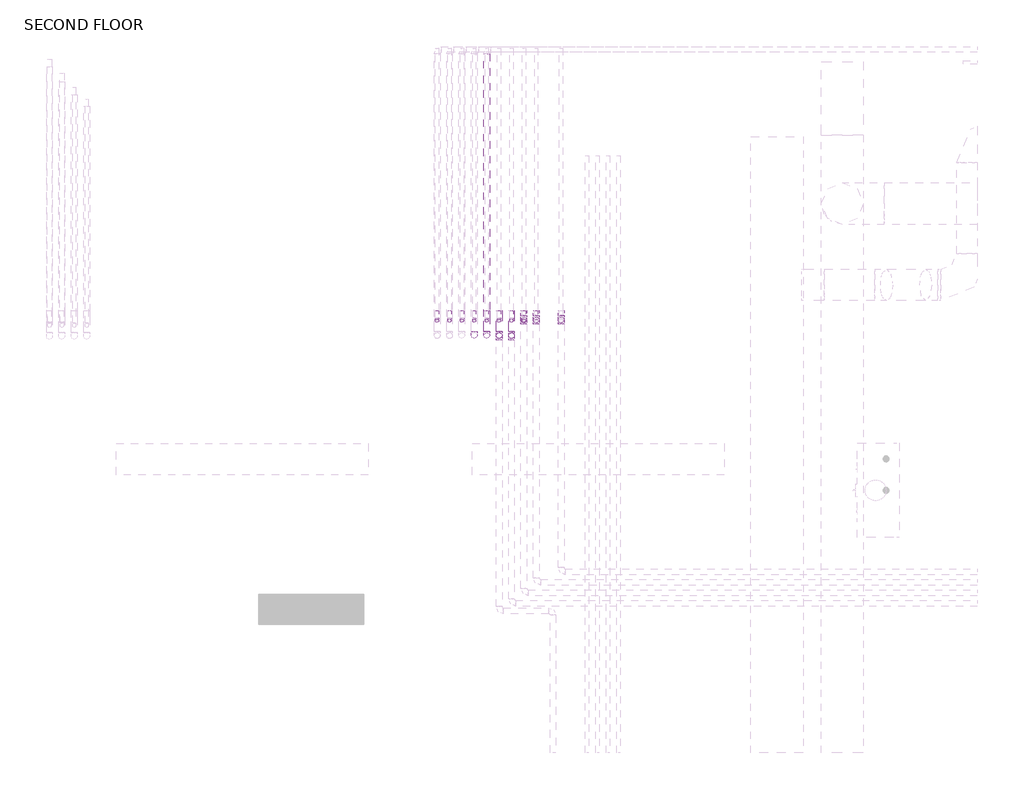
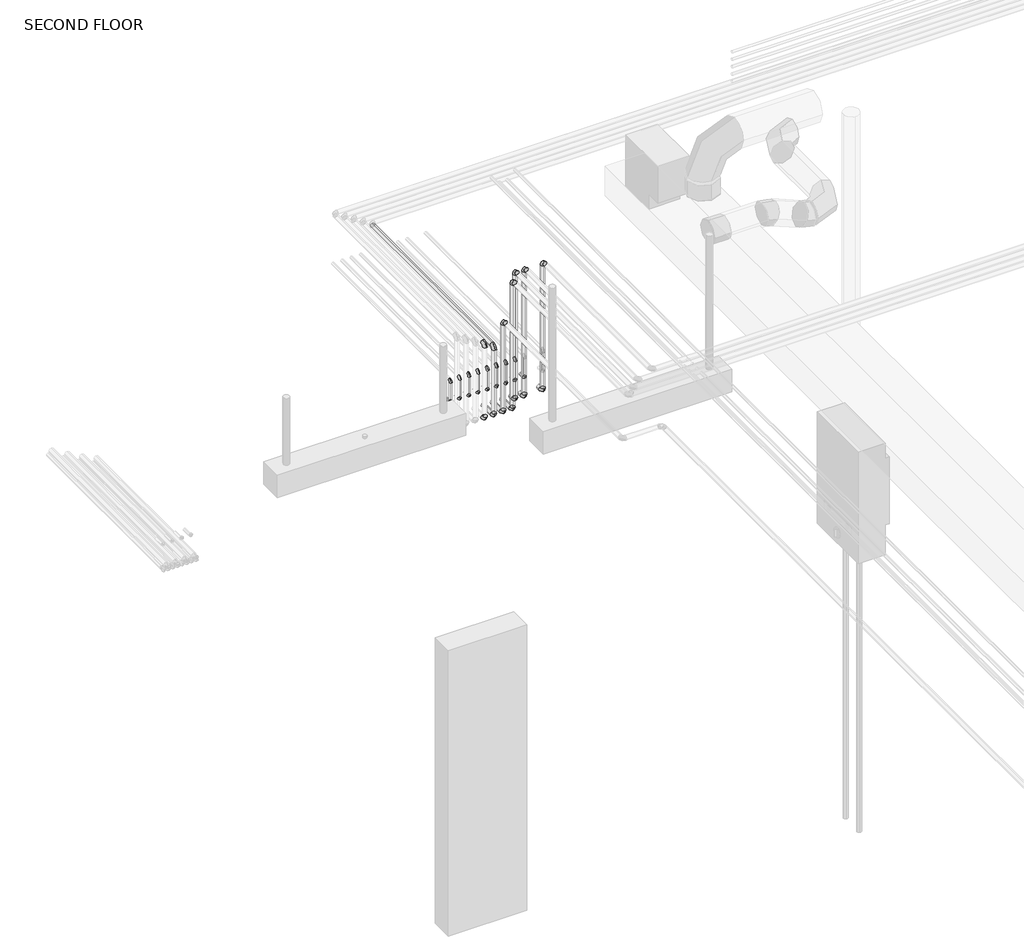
# One storey, part 8 of 12: 31 pipe fittings, 31 pipe segments.
"""IFC4 building model written with IfcOpenShell, lengths in millimetres."""

from ifc_helpers import new_model, si_unit, point, frame, frame_2d, origin, place, context, project, spatial, circle_curve, trimmed, segment, composite_curve, outline, extrude, transform, mapped, element, save
from components import elbow_generic_standard_c06ac706, elbow_generic_standard_a088f956

model = new_model("IFC4")

# Units and contexts
model_context = context("Model", 3, world=origin())
ifc_project = project(units=[si_unit("LENGTHUNIT", "METRE", prefix="MILLI")], contexts=[model_context])

# Site, building, storey
site = spatial("IfcSite", under=ifc_project)
building = spatial("IfcBuilding", under=site)
storey = spatial("IfcBuildingStorey", under=building, Name="SECOND FLOOR", Elevation=34544.0)

# Pipe fittings
placement = place(None, origin())
elbow_generic_standard_shape = elbow_generic_standard_c06ac706(model_context)
element("IfcPipeFitting", 1, ObjectType="Elbow - Generic : Standard", at=placement, inside=storey, context=model_context, shape_type="MappedRepresentation", body=[
    mapped(elbow_generic_standard_shape, transform((-7811.0790543, 6278.6701311, 37115.9125), x_axis=(0.0, -1.0, 0.0), y_axis=(0.0, 0.0, 1.0), z_axis=(-1.0, 0.0, 0.0))),
])
element("IfcPipeFitting", 2, ObjectType="Elbow - Generic : Standard", at=placement, inside=storey, context=model_context, shape_type="MappedRepresentation", body=[
    mapped(elbow_generic_standard_shape, transform((-7811.0790543, 6278.6701311, 37630.1), x_axis=(0.0, 0.0, 1.0), y_axis=(0.0, 1.0, 0.0), z_axis=(-1.0, 0.0, 0.0))),
])
element("IfcPipeFitting", 3, ObjectType="Elbow - Generic : Standard", at=placement, inside=storey, context=model_context, shape_type="MappedRepresentation", body=[
    mapped(elbow_generic_standard_shape, transform((-7751.0790543, 6278.6701311, 37115.9125), x_axis=(0.0, -1.0, 0.0), y_axis=(0.0, 0.0, 1.0), z_axis=(-1.0, 0.0, 0.0))),
])
element("IfcPipeFitting", 4, ObjectType="Elbow - Generic : Standard", at=placement, inside=storey, context=model_context, shape_type="MappedRepresentation", body=[
    mapped(elbow_generic_standard_shape, transform((-7751.0790543, 6278.6701311, 37592.0), x_axis=(0.0, 0.0, 1.0), y_axis=(0.0, 1.0, 0.0), z_axis=(-1.0, 0.0, 0.0))),
])
element("IfcPipeFitting", 5, ObjectType="Elbow - Generic : Standard", at=placement, inside=storey, context=model_context, shape_type="MappedRepresentation", body=[
    mapped(elbow_generic_standard_shape, transform((-7691.0790543, 6278.6701311, 37115.9125), x_axis=(0.0, -1.0, 0.0), y_axis=(0.0, 0.0, 1.0), z_axis=(-1.0, 0.0, 0.0))),
])
element("IfcPipeFitting", 6, ObjectType="Elbow - Generic : Standard", at=placement, inside=storey, context=model_context, shape_type="MappedRepresentation", body=[
    mapped(elbow_generic_standard_shape, transform((-7691.0790543, 6278.6701311, 37744.4), x_axis=(0.0, 0.0, 1.0), y_axis=(0.0, -1.0, 0.0), z_axis=(1.0, 0.0, 0.0))),
])
element("IfcPipeFitting", 7, ObjectType="Elbow - Generic : Standard", at=placement, inside=storey, context=model_context, shape_type="MappedRepresentation", body=[
    mapped(elbow_generic_standard_shape, transform((-7631.0790543, 6278.6701311, 37115.9125), x_axis=(0.0, -1.0, 0.0), y_axis=(0.0, 0.0, 1.0), z_axis=(-1.0, 0.0, 0.0))),
])
element("IfcPipeFitting", 8, ObjectType="Elbow - Generic : Standard", at=placement, inside=storey, context=model_context, shape_type="MappedRepresentation", body=[
    mapped(elbow_generic_standard_shape, transform((-7631.0790543, 6278.6701311, 37998.4), x_axis=(0.0, 0.0, 1.0), y_axis=(0.0, -1.0, 0.0), z_axis=(1.0, 0.0, 0.0))),
])
element("IfcPipeFitting", 9, ObjectType="Elbow - Generic : Standard", at=placement, inside=storey, context=model_context, shape_type="MappedRepresentation", body=[
    mapped(elbow_generic_standard_shape, transform((-7571.0790543, 6354.8701311, 37115.9125), x_axis=(0.0, -1.0, 0.0), y_axis=(0.0, 0.0, 1.0), z_axis=(-1.0, 0.0, 0.0))),
])
element("IfcPipeFitting", 10, ObjectType="Elbow - Generic : Standard", at=placement, inside=storey, context=model_context, shape_type="MappedRepresentation", body=[
    mapped(elbow_generic_standard_shape, transform((-7571.0790543, 6354.8701311, 37998.4), x_axis=(0.0, 0.0, 1.0), y_axis=(0.0, -1.0, 0.0), z_axis=(1.0, 0.0, 0.0))),
])
element("IfcPipeFitting", 11, ObjectType="Elbow - Generic : Standard", at=placement, inside=storey, context=model_context, shape_type="MappedRepresentation", body=[
    mapped(elbow_generic_standard_shape, transform((-7511.0790543, 6354.8701311, 37115.9125), x_axis=(0.0, -1.0, 0.0), y_axis=(0.0, 0.0, 1.0), z_axis=(-1.0, 0.0, 0.0))),
])
element("IfcPipeFitting", 12, ObjectType="Elbow - Generic : Standard", at=placement, inside=storey, context=model_context, shape_type="MappedRepresentation", body=[
    mapped(elbow_generic_standard_shape, transform((-7511.0790543, 6354.8701311, 37998.4), x_axis=(0.0, 0.0, 1.0), y_axis=(0.0, -1.0, 0.0), z_axis=(1.0, 0.0, 0.0))),
])
element("IfcPipeFitting", 13, ObjectType="Elbow - Generic : Standard", at=placement, inside=storey, context=model_context, shape_type="MappedRepresentation", body=[
    mapped(elbow_generic_standard_shape, transform((-7391.0790543, 6354.8701311, 37115.9125), x_axis=(0.0, -1.0, 0.0), y_axis=(0.0, 0.0, 1.0), z_axis=(-1.0, 0.0, 0.0))),
])
element("IfcPipeFitting", 14, ObjectType="Elbow - Generic : Standard", at=placement, inside=storey, context=model_context, shape_type="MappedRepresentation", body=[
    mapped(elbow_generic_standard_shape, transform((-7391.0790543, 6354.8701311, 37998.4), x_axis=(0.0, 0.0, 1.0), y_axis=(0.0, -1.0, 0.0), z_axis=(1.0, 0.0, 0.0))),
])
elbow_generic_standard_2_shape = elbow_generic_standard_a088f956(model_context)
element("IfcPipeFitting", 15, ObjectType="Elbow - Generic : Standard", at=placement, inside=storey, context=model_context, shape_type="MappedRepresentation", body=[
    mapped(elbow_generic_standard_2_shape, transform((-7991.0790543, 6350.1076209, 37245.9125), x_axis=(0.0, -1.0, 0.0), y_axis=(0.0, 0.0, 1.0), z_axis=(-1.0, 0.0, 0.0))),
])
element("IfcPipeFitting", 16, ObjectType="Elbow - Generic : Standard", at=placement, inside=storey, context=model_context, shape_type="MappedRepresentation", body=[
    mapped(elbow_generic_standard_2_shape, transform((-7991.0790543, 6350.1076209, 37398.3125), x_axis=(0.0, 0.0, 1.0), y_axis=(0.0, 1.0, 0.0), z_axis=(-1.0, 0.0, 0.0))),
])
element("IfcPipeFitting", 17, ObjectType="Elbow - Generic : Standard", at=placement, inside=storey, context=model_context, shape_type="MappedRepresentation", body=[
    mapped(elbow_generic_standard_2_shape, transform((-7931.0790543, 6350.1076209, 37245.9125), x_axis=(0.0, -1.0, 0.0), y_axis=(0.0, 0.0, 1.0), z_axis=(-1.0, 0.0, 0.0))),
])
element("IfcPipeFitting", 18, ObjectType="Elbow - Generic : Standard", at=placement, inside=storey, context=model_context, shape_type="MappedRepresentation", body=[
    mapped(elbow_generic_standard_2_shape, transform((-7931.0790543, 6350.1076209, 37398.3125), x_axis=(0.0, 0.0, 1.0), y_axis=(0.0, 1.0, 0.0), z_axis=(-1.0, 0.0, 0.0))),
])
element("IfcPipeFitting", 19, ObjectType="Elbow - Generic : Standard", at=placement, inside=storey, context=model_context, shape_type="MappedRepresentation", body=[
    mapped(elbow_generic_standard_2_shape, transform((-7871.0790543, 6350.1076209, 37245.9125), x_axis=(0.0, -1.0, 0.0), y_axis=(0.0, 0.0, 1.0), z_axis=(-1.0, 0.0, 0.0))),
])
element("IfcPipeFitting", 20, ObjectType="Elbow - Generic : Standard", at=placement, inside=storey, context=model_context, shape_type="MappedRepresentation", body=[
    mapped(elbow_generic_standard_2_shape, transform((-7871.0790543, 6350.1076209, 37398.3125), x_axis=(0.0, 0.0, 1.0), y_axis=(0.0, 1.0, 0.0), z_axis=(-1.0, 0.0, 0.0))),
])
element("IfcPipeFitting", 21, ObjectType="Elbow - Generic : Standard", at=placement, inside=storey, context=model_context, shape_type="MappedRepresentation", body=[
    mapped(elbow_generic_standard_2_shape, transform((-7811.0790543, 6350.1076209, 37245.9125), x_axis=(0.0, -1.0, 0.0), y_axis=(0.0, 0.0, 1.0), z_axis=(-1.0, 0.0, 0.0))),
])
element("IfcPipeFitting", 22, ObjectType="Elbow - Generic : Standard", at=placement, inside=storey, context=model_context, shape_type="MappedRepresentation", body=[
    mapped(elbow_generic_standard_2_shape, transform((-7811.0790543, 6350.1076209, 37398.3125), x_axis=(0.0, 0.0, 1.0), y_axis=(0.0, 1.0, 0.0), z_axis=(-1.0, 0.0, 0.0))),
])
element("IfcPipeFitting", 23, ObjectType="Elbow - Generic : Standard", at=placement, inside=storey, context=model_context, shape_type="MappedRepresentation", body=[
    mapped(elbow_generic_standard_2_shape, transform((-7751.0790543, 6350.1076209, 37245.9125), x_axis=(0.0, -1.0, 0.0), y_axis=(0.0, 0.0, 1.0), z_axis=(-1.0, 0.0, 0.0))),
])
element("IfcPipeFitting", 24, ObjectType="Elbow - Generic : Standard", at=placement, inside=storey, context=model_context, shape_type="MappedRepresentation", body=[
    mapped(elbow_generic_standard_2_shape, transform((-7751.0790543, 6350.1076209, 37398.3125), x_axis=(0.0, 0.0, 1.0), y_axis=(0.0, 1.0, 0.0), z_axis=(-1.0, 0.0, 0.0))),
])
element("IfcPipeFitting", 25, ObjectType="Elbow - Generic : Standard", at=placement, inside=storey, context=model_context, shape_type="MappedRepresentation", body=[
    mapped(elbow_generic_standard_2_shape, transform((-7691.0790543, 6350.1076209, 37245.9125), x_axis=(0.0, -1.0, 0.0), y_axis=(0.0, 0.0, 1.0), z_axis=(-1.0, 0.0, 0.0))),
])
element("IfcPipeFitting", 26, ObjectType="Elbow - Generic : Standard", at=placement, inside=storey, context=model_context, shape_type="MappedRepresentation", body=[
    mapped(elbow_generic_standard_2_shape, transform((-7691.0790543, 6350.1076209, 37398.3125), x_axis=(0.0, 0.0, 1.0), y_axis=(0.0, 1.0, 0.0), z_axis=(-1.0, 0.0, 0.0))),
])
element("IfcPipeFitting", 27, ObjectType="Elbow - Generic : Standard", at=placement, inside=storey, context=model_context, shape_type="MappedRepresentation", body=[
    mapped(elbow_generic_standard_2_shape, transform((-7631.0790543, 6350.1076209, 37245.9125), x_axis=(0.0, -1.0, 0.0), y_axis=(0.0, 0.0, 1.0), z_axis=(-1.0, 0.0, 0.0))),
])
element("IfcPipeFitting", 28, ObjectType="Elbow - Generic : Standard", at=placement, inside=storey, context=model_context, shape_type="MappedRepresentation", body=[
    mapped(elbow_generic_standard_2_shape, transform((-7631.0790543, 6350.1076209, 37398.3125), x_axis=(0.0, 0.0, 1.0), y_axis=(0.0, 1.0, 0.0), z_axis=(-1.0, 0.0, 0.0))),
])
element("IfcPipeFitting", 29, ObjectType="Elbow - Generic : Standard", at=placement, inside=storey, context=model_context, shape_type="MappedRepresentation", body=[
    mapped(elbow_generic_standard_2_shape, transform((-7571.0790543, 6350.1076209, 37245.9125), x_axis=(0.0, -1.0, 0.0), y_axis=(0.0, 0.0, 1.0), z_axis=(-1.0, 0.0, 0.0))),
])
element("IfcPipeFitting", 30, ObjectType="Elbow - Generic : Standard", at=placement, inside=storey, context=model_context, shape_type="MappedRepresentation", body=[
    mapped(elbow_generic_standard_2_shape, transform((-7571.0790543, 6350.1076209, 37398.3125), x_axis=(0.0, 0.0, 1.0), y_axis=(0.0, 1.0, 0.0), z_axis=(-1.0, 0.0, 0.0))),
])
element("IfcPipeFitting", 31, ObjectType="Elbow - Generic : Standard", at=placement, inside=storey, context=model_context, shape_type="MappedRepresentation", body=[
    mapped(elbow_generic_standard_2_shape, transform((-7511.0790543, 6350.1076209, 37245.9125), x_axis=(0.0, -1.0, 0.0), y_axis=(0.0, 0.0, 1.0), z_axis=(-1.0, 0.0, 0.0))),
])

# Pipe segments
element("IfcPipeSegment", 32, ObjectType="Copper Tubing", at=placement, inside=storey, context=model_context, shape_type="SweptSolid", body=[
    extrude(outline(composite_curve([segment(trimmed(circle_curve(frame_2d((37115.9125, -7751.0790543)), 14.2875), [point((37115.9125, -7765.3665543))], [point((37101.625, -7751.0790543))], False, "CARTESIAN"), True, "CONTINUOUS"), segment(trimmed(circle_curve(frame_2d((37115.9125, -7751.0790543)), 14.2875), [point((37101.625, -7751.0790543))], [point((37115.9125, -7736.7915543))], False, "CARTESIAN"), True, "CONTINUOUS"), segment(trimmed(circle_curve(frame_2d((37115.9125, -7751.0790543)), 14.2875), [point((37115.9125, -7736.7915543))], [point((37130.2, -7751.0790543))], False, "CARTESIAN"), True, "CONTINUOUS"), segment(trimmed(circle_curve(frame_2d((37115.9125, -7751.0790543)), 14.2875), [point((37130.2, -7751.0790543))], [point((37115.9125, -7765.3665543))], False, "CARTESIAN"), True, "CONTINUOUS")], self_intersect=False)), frame((0.0, 6299.3076311, 0.0), z_axis=(0.0, 1.0, 0.0), x_axis=(0.0, 0.0, 1.0)), (0.0, 0.0, 1.0), 101.5999898),
])
element("IfcPipeSegment", 33, ObjectType="Copper Tubing", at=placement, inside=storey, context=model_context, shape_type="SweptSolid", body=[
    extrude(outline(composite_curve([segment(trimmed(circle_curve(frame_2d((-7751.0790543, 6278.6701311)), 14.2875), [point((-7765.3665543, 6278.6701311))], [point((-7751.0790543, 6292.9576311))], False, "CARTESIAN"), True, "CONTINUOUS"), segment(trimmed(circle_curve(frame_2d((-7751.0790543, 6278.6701311)), 14.2875), [point((-7751.0790543, 6292.9576311))], [point((-7736.7915543, 6278.6701311))], False, "CARTESIAN"), True, "CONTINUOUS"), segment(trimmed(circle_curve(frame_2d((-7751.0790543, 6278.6701311)), 14.2875), [point((-7736.7915543, 6278.6701311))], [point((-7751.0790543, 6264.3826311))], False, "CARTESIAN"), True, "CONTINUOUS"), segment(trimmed(circle_curve(frame_2d((-7751.0790543, 6278.6701311)), 14.2875), [point((-7751.0790543, 6264.3826311))], [point((-7765.3665543, 6278.6701311))], False, "CARTESIAN"), True, "CONTINUOUS")], self_intersect=False)), frame((0.0, 0.0, 37136.55), z_axis=(0.0, 0.0, 1.0), x_axis=(1.0, 0.0, 0.0)), (0.0, 0.0, 1.0), 434.8125),
])
element("IfcPipeSegment", 34, ObjectType="Copper Tubing", at=placement, inside=storey, context=model_context, shape_type="SweptSolid", body=[
    extrude(outline(composite_curve([segment(trimmed(circle_curve(frame_2d((37592.0, -7751.0790543)), 14.2875), [point((37592.0, -7736.7915543))], [point((37606.2875, -7751.0790543))], False, "CARTESIAN"), True, "CONTINUOUS"), segment(trimmed(circle_curve(frame_2d((37592.0, -7751.0790543)), 14.2875), [point((37606.2875, -7751.0790543))], [point((37592.0, -7765.3665543))], False, "CARTESIAN"), True, "CONTINUOUS"), segment(trimmed(circle_curve(frame_2d((37592.0, -7751.0790543)), 14.2875), [point((37592.0, -7765.3665543))], [point((37577.7125, -7751.0790543))], False, "CARTESIAN"), True, "CONTINUOUS"), segment(trimmed(circle_curve(frame_2d((37592.0, -7751.0790543)), 14.2875), [point((37577.7125, -7751.0790543))], [point((37592.0, -7736.7915543))], False, "CARTESIAN"), True, "CONTINUOUS")], self_intersect=False)), frame((0.0, 6299.3076311, 0.0), z_axis=(0.0, 1.0, 0.0), x_axis=(0.0, 0.0, 1.0)), (0.0, 0.0, 1.0), 1343.9118694),
])
element("IfcPipeSegment", 35, ObjectType="Copper Tubing", at=placement, inside=storey, context=model_context, shape_type="SweptSolid", body=[
    extrude(outline(composite_curve([segment(trimmed(circle_curve(frame_2d((37115.9125, -7691.0790543)), 14.2875), [point((37115.9125, -7705.3665543))], [point((37101.625, -7691.0790543))], False, "CARTESIAN"), True, "CONTINUOUS"), segment(trimmed(circle_curve(frame_2d((37115.9125, -7691.0790543)), 14.2875), [point((37101.625, -7691.0790543))], [point((37115.9125, -7676.7915543))], False, "CARTESIAN"), True, "CONTINUOUS"), segment(trimmed(circle_curve(frame_2d((37115.9125, -7691.0790543)), 14.2875), [point((37115.9125, -7676.7915543))], [point((37130.2, -7691.0790543))], False, "CARTESIAN"), True, "CONTINUOUS"), segment(trimmed(circle_curve(frame_2d((37115.9125, -7691.0790543)), 14.2875), [point((37130.2, -7691.0790543))], [point((37115.9125, -7705.3665543))], False, "CARTESIAN"), True, "CONTINUOUS")], self_intersect=False)), frame((0.0, 6299.3076311, 0.0), z_axis=(0.0, 1.0, 0.0), x_axis=(0.0, 0.0, 1.0)), (0.0, 0.0, 1.0), 101.5999898),
])
element("IfcPipeSegment", 36, ObjectType="Copper Tubing", at=placement, inside=storey, context=model_context, shape_type="SweptSolid", body=[
    extrude(outline(composite_curve([segment(trimmed(circle_curve(frame_2d((-7691.0790543, 6278.6701311)), 14.2875), [point((-7705.3665543, 6278.6701311))], [point((-7691.0790543, 6292.9576311))], False, "CARTESIAN"), True, "CONTINUOUS"), segment(trimmed(circle_curve(frame_2d((-7691.0790543, 6278.6701311)), 14.2875), [point((-7691.0790543, 6292.9576311))], [point((-7676.7915543, 6278.6701311))], False, "CARTESIAN"), True, "CONTINUOUS"), segment(trimmed(circle_curve(frame_2d((-7691.0790543, 6278.6701311)), 14.2875), [point((-7676.7915543, 6278.6701311))], [point((-7691.0790543, 6264.3826311))], False, "CARTESIAN"), True, "CONTINUOUS"), segment(trimmed(circle_curve(frame_2d((-7691.0790543, 6278.6701311)), 14.2875), [point((-7691.0790543, 6264.3826311))], [point((-7705.3665543, 6278.6701311))], False, "CARTESIAN"), True, "CONTINUOUS")], self_intersect=False)), frame((0.0, 0.0, 37136.55), z_axis=(0.0, 0.0, 1.0), x_axis=(1.0, 0.0, 0.0)), (0.0, 0.0, 1.0), 587.2125),
])
element("IfcPipeSegment", 37, ObjectType="Copper Tubing", at=placement, inside=storey, context=model_context, shape_type="SweptSolid", body=[
    extrude(outline(composite_curve([segment(trimmed(circle_curve(frame_2d((37115.9125, -7631.0790543)), 14.2875), [point((37115.9125, -7645.3665543))], [point((37101.625, -7631.0790543))], False, "CARTESIAN"), True, "CONTINUOUS"), segment(trimmed(circle_curve(frame_2d((37115.9125, -7631.0790543)), 14.2875), [point((37101.625, -7631.0790543))], [point((37115.9125, -7616.7915543))], False, "CARTESIAN"), True, "CONTINUOUS"), segment(trimmed(circle_curve(frame_2d((37115.9125, -7631.0790543)), 14.2875), [point((37115.9125, -7616.7915543))], [point((37130.2, -7631.0790543))], False, "CARTESIAN"), True, "CONTINUOUS"), segment(trimmed(circle_curve(frame_2d((37115.9125, -7631.0790543)), 14.2875), [point((37130.2, -7631.0790543))], [point((37115.9125, -7645.3665543))], False, "CARTESIAN"), True, "CONTINUOUS")], self_intersect=False)), frame((0.0, 6299.3076311, 0.0), z_axis=(0.0, 1.0, 0.0), x_axis=(0.0, 0.0, 1.0)), (0.0, 0.0, 1.0), 101.5999898),
])
element("IfcPipeSegment", 38, ObjectType="Copper Tubing", at=placement, inside=storey, context=model_context, shape_type="SweptSolid", body=[
    extrude(outline(composite_curve([segment(trimmed(circle_curve(frame_2d((-7631.0790543, 6278.6701311)), 14.2875), [point((-7645.3665543, 6278.6701311))], [point((-7631.0790543, 6292.9576311))], False, "CARTESIAN"), True, "CONTINUOUS"), segment(trimmed(circle_curve(frame_2d((-7631.0790543, 6278.6701311)), 14.2875), [point((-7631.0790543, 6292.9576311))], [point((-7616.7915543, 6278.6701311))], False, "CARTESIAN"), True, "CONTINUOUS"), segment(trimmed(circle_curve(frame_2d((-7631.0790543, 6278.6701311)), 14.2875), [point((-7616.7915543, 6278.6701311))], [point((-7631.0790543, 6264.3826311))], False, "CARTESIAN"), True, "CONTINUOUS"), segment(trimmed(circle_curve(frame_2d((-7631.0790543, 6278.6701311)), 14.2875), [point((-7631.0790543, 6264.3826311))], [point((-7645.3665543, 6278.6701311))], False, "CARTESIAN"), True, "CONTINUOUS")], self_intersect=False)), frame((0.0, 0.0, 37136.55), z_axis=(0.0, 0.0, 1.0), x_axis=(1.0, 0.0, 0.0)), (0.0, 0.0, 1.0), 841.2125),
])
element("IfcPipeSegment", 39, ObjectType="Copper Tubing", at=placement, inside=storey, context=model_context, shape_type="SweptSolid", body=[
    extrude(outline(composite_curve([segment(trimmed(circle_curve(frame_2d((37115.9125, -7571.0790543)), 14.2875), [point((37115.9125, -7585.3665543))], [point((37101.625, -7571.0790543))], False, "CARTESIAN"), True, "CONTINUOUS"), segment(trimmed(circle_curve(frame_2d((37115.9125, -7571.0790543)), 14.2875), [point((37101.625, -7571.0790543))], [point((37115.9125, -7556.7915543))], False, "CARTESIAN"), True, "CONTINUOUS"), segment(trimmed(circle_curve(frame_2d((37115.9125, -7571.0790543)), 14.2875), [point((37115.9125, -7556.7915543))], [point((37130.2, -7571.0790543))], False, "CARTESIAN"), True, "CONTINUOUS"), segment(trimmed(circle_curve(frame_2d((37115.9125, -7571.0790543)), 14.2875), [point((37130.2, -7571.0790543))], [point((37115.9125, -7585.3665543))], False, "CARTESIAN"), True, "CONTINUOUS")], self_intersect=False)), frame((0.0, 6375.5076311, 0.0), z_axis=(0.0, 1.0, 0.0), x_axis=(0.0, 0.0, 1.0)), (0.0, 0.0, 1.0), 25.3999898),
])
element("IfcPipeSegment", 40, ObjectType="Copper Tubing", at=placement, inside=storey, context=model_context, shape_type="SweptSolid", body=[
    extrude(outline(composite_curve([segment(trimmed(circle_curve(frame_2d((-7571.0790543, 6354.8701311)), 14.2875), [point((-7585.3665543, 6354.8701311))], [point((-7571.0790543, 6369.1576311))], False, "CARTESIAN"), True, "CONTINUOUS"), segment(trimmed(circle_curve(frame_2d((-7571.0790543, 6354.8701311)), 14.2875), [point((-7571.0790543, 6369.1576311))], [point((-7556.7915543, 6354.8701311))], False, "CARTESIAN"), True, "CONTINUOUS"), segment(trimmed(circle_curve(frame_2d((-7571.0790543, 6354.8701311)), 14.2875), [point((-7556.7915543, 6354.8701311))], [point((-7571.0790543, 6340.5826311))], False, "CARTESIAN"), True, "CONTINUOUS"), segment(trimmed(circle_curve(frame_2d((-7571.0790543, 6354.8701311)), 14.2875), [point((-7571.0790543, 6340.5826311))], [point((-7585.3665543, 6354.8701311))], False, "CARTESIAN"), True, "CONTINUOUS")], self_intersect=False)), frame((0.0, 0.0, 37136.55), z_axis=(0.0, 0.0, 1.0), x_axis=(1.0, 0.0, 0.0)), (0.0, 0.0, 1.0), 841.2125),
])
element("IfcPipeSegment", 41, ObjectType="Copper Tubing", at=placement, inside=storey, context=model_context, shape_type="SweptSolid", body=[
    extrude(outline(composite_curve([segment(trimmed(circle_curve(frame_2d((37115.9125, -7511.0790543)), 14.2875), [point((37115.9125, -7525.3665543))], [point((37101.625, -7511.0790543))], False, "CARTESIAN"), True, "CONTINUOUS"), segment(trimmed(circle_curve(frame_2d((37115.9125, -7511.0790543)), 14.2875), [point((37101.625, -7511.0790543))], [point((37115.9125, -7496.7915543))], False, "CARTESIAN"), True, "CONTINUOUS"), segment(trimmed(circle_curve(frame_2d((37115.9125, -7511.0790543)), 14.2875), [point((37115.9125, -7496.7915543))], [point((37130.2, -7511.0790543))], False, "CARTESIAN"), True, "CONTINUOUS"), segment(trimmed(circle_curve(frame_2d((37115.9125, -7511.0790543)), 14.2875), [point((37130.2, -7511.0790543))], [point((37115.9125, -7525.3665543))], False, "CARTESIAN"), True, "CONTINUOUS")], self_intersect=False)), frame((0.0, 6375.5076311, 0.0), z_axis=(0.0, 1.0, 0.0), x_axis=(0.0, 0.0, 1.0)), (0.0, 0.0, 1.0), 25.3999898),
])
element("IfcPipeSegment", 42, ObjectType="Copper Tubing", at=placement, inside=storey, context=model_context, shape_type="SweptSolid", body=[
    extrude(outline(composite_curve([segment(trimmed(circle_curve(frame_2d((-7511.0790543, 6354.8701311)), 14.2875), [point((-7525.3665543, 6354.8701311))], [point((-7511.0790543, 6369.1576311))], False, "CARTESIAN"), True, "CONTINUOUS"), segment(trimmed(circle_curve(frame_2d((-7511.0790543, 6354.8701311)), 14.2875), [point((-7511.0790543, 6369.1576311))], [point((-7496.7915543, 6354.8701311))], False, "CARTESIAN"), True, "CONTINUOUS"), segment(trimmed(circle_curve(frame_2d((-7511.0790543, 6354.8701311)), 14.2875), [point((-7496.7915543, 6354.8701311))], [point((-7511.0790543, 6340.5826311))], False, "CARTESIAN"), True, "CONTINUOUS"), segment(trimmed(circle_curve(frame_2d((-7511.0790543, 6354.8701311)), 14.2875), [point((-7511.0790543, 6340.5826311))], [point((-7525.3665543, 6354.8701311))], False, "CARTESIAN"), True, "CONTINUOUS")], self_intersect=False)), frame((0.0, 0.0, 37136.55), z_axis=(0.0, 0.0, 1.0), x_axis=(1.0, 0.0, 0.0)), (0.0, 0.0, 1.0), 841.2125),
])
element("IfcPipeSegment", 43, ObjectType="Copper Tubing", at=placement, inside=storey, context=model_context, shape_type="SweptSolid", body=[
    extrude(outline(composite_curve([segment(trimmed(circle_curve(frame_2d((37115.9125, -7391.0790543)), 14.2875), [point((37115.9125, -7405.3665543))], [point((37101.625, -7391.0790543))], False, "CARTESIAN"), True, "CONTINUOUS"), segment(trimmed(circle_curve(frame_2d((37115.9125, -7391.0790543)), 14.2875), [point((37101.625, -7391.0790543))], [point((37115.9125, -7376.7915543))], False, "CARTESIAN"), True, "CONTINUOUS"), segment(trimmed(circle_curve(frame_2d((37115.9125, -7391.0790543)), 14.2875), [point((37115.9125, -7376.7915543))], [point((37130.2, -7391.0790543))], False, "CARTESIAN"), True, "CONTINUOUS"), segment(trimmed(circle_curve(frame_2d((37115.9125, -7391.0790543)), 14.2875), [point((37130.2, -7391.0790543))], [point((37115.9125, -7405.3665543))], False, "CARTESIAN"), True, "CONTINUOUS")], self_intersect=False)), frame((0.0, 6375.5076311, 0.0), z_axis=(0.0, 1.0, 0.0), x_axis=(0.0, 0.0, 1.0)), (0.0, 0.0, 1.0), 25.3999898),
])
element("IfcPipeSegment", 44, ObjectType="Copper Tubing", at=placement, inside=storey, context=model_context, shape_type="SweptSolid", body=[
    extrude(outline(composite_curve([segment(trimmed(circle_curve(frame_2d((-7391.0790543, 6354.8701311)), 14.2875), [point((-7405.3665543, 6354.8701311))], [point((-7391.0790543, 6369.1576311))], False, "CARTESIAN"), True, "CONTINUOUS"), segment(trimmed(circle_curve(frame_2d((-7391.0790543, 6354.8701311)), 14.2875), [point((-7391.0790543, 6369.1576311))], [point((-7376.7915543, 6354.8701311))], False, "CARTESIAN"), True, "CONTINUOUS"), segment(trimmed(circle_curve(frame_2d((-7391.0790543, 6354.8701311)), 14.2875), [point((-7376.7915543, 6354.8701311))], [point((-7391.0790543, 6340.5826311))], False, "CARTESIAN"), True, "CONTINUOUS"), segment(trimmed(circle_curve(frame_2d((-7391.0790543, 6354.8701311)), 14.2875), [point((-7391.0790543, 6340.5826311))], [point((-7405.3665543, 6354.8701311))], False, "CARTESIAN"), True, "CONTINUOUS")], self_intersect=False)), frame((0.0, 0.0, 37136.55), z_axis=(0.0, 0.0, 1.0), x_axis=(1.0, 0.0, 0.0)), (0.0, 0.0, 1.0), 841.2125),
])
element("IfcPipeSegment", 45, ObjectType="Copper Tubing", at=placement, inside=storey, context=model_context, shape_type="SweptSolid", body=[
    extrude(outline(composite_curve([segment(trimmed(circle_curve(frame_2d((37245.9125, -7991.0790543)), 7.9375), [point((37245.9125, -7999.0165543))], [point((37237.975, -7991.0790543))], False, "CARTESIAN"), True, "CONTINUOUS"), segment(trimmed(circle_curve(frame_2d((37245.9125, -7991.0790543)), 7.9375), [point((37237.975, -7991.0790543))], [point((37245.9125, -7983.1415543))], False, "CARTESIAN"), True, "CONTINUOUS"), segment(trimmed(circle_curve(frame_2d((37245.9125, -7991.0790543)), 7.9375), [point((37245.9125, -7983.1415543))], [point((37253.85, -7991.0790543))], False, "CARTESIAN"), True, "CONTINUOUS"), segment(trimmed(circle_curve(frame_2d((37245.9125, -7991.0790543)), 7.9375), [point((37253.85, -7991.0790543))], [point((37245.9125, -7999.0165543))], False, "CARTESIAN"), True, "CONTINUOUS")], self_intersect=False)), frame((0.0, 6364.3951209, 0.0), z_axis=(0.0, 1.0, 0.0), x_axis=(0.0, 0.0, 1.0)), (0.0, 0.0, 1.0), 36.5125),
])
element("IfcPipeSegment", 46, ObjectType="Copper Tubing", at=placement, inside=storey, context=model_context, shape_type="SweptSolid", body=[
    extrude(outline(composite_curve([segment(trimmed(circle_curve(frame_2d((-7991.0790543, 6350.1076209)), 7.9375), [point((-7999.0165543, 6350.1076209))], [point((-7991.0790543, 6358.0451209))], False, "CARTESIAN"), True, "CONTINUOUS"), segment(trimmed(circle_curve(frame_2d((-7991.0790543, 6350.1076209)), 7.9375), [point((-7991.0790543, 6358.0451209))], [point((-7983.1415543, 6350.1076209))], False, "CARTESIAN"), True, "CONTINUOUS"), segment(trimmed(circle_curve(frame_2d((-7991.0790543, 6350.1076209)), 7.9375), [point((-7983.1415543, 6350.1076209))], [point((-7991.0790543, 6342.1701209))], False, "CARTESIAN"), True, "CONTINUOUS"), segment(trimmed(circle_curve(frame_2d((-7991.0790543, 6350.1076209)), 7.9375), [point((-7991.0790543, 6342.1701209))], [point((-7999.0165543, 6350.1076209))], False, "CARTESIAN"), True, "CONTINUOUS")], self_intersect=False)), frame((0.0, 0.0, 37260.2), z_axis=(0.0, 0.0, 1.0), x_axis=(1.0, 0.0, 0.0)), (0.0, 0.0, 1.0), 123.825),
])
element("IfcPipeSegment", 47, ObjectType="Copper Tubing", at=placement, inside=storey, context=model_context, shape_type="SweptSolid", body=[
    extrude(outline(composite_curve([segment(trimmed(circle_curve(frame_2d((37245.9125, -7931.0790543)), 7.9375), [point((37245.9125, -7939.0165543))], [point((37237.975, -7931.0790543))], False, "CARTESIAN"), True, "CONTINUOUS"), segment(trimmed(circle_curve(frame_2d((37245.9125, -7931.0790543)), 7.9375), [point((37237.975, -7931.0790543))], [point((37245.9125, -7923.1415543))], False, "CARTESIAN"), True, "CONTINUOUS"), segment(trimmed(circle_curve(frame_2d((37245.9125, -7931.0790543)), 7.9375), [point((37245.9125, -7923.1415543))], [point((37253.85, -7931.0790543))], False, "CARTESIAN"), True, "CONTINUOUS"), segment(trimmed(circle_curve(frame_2d((37245.9125, -7931.0790543)), 7.9375), [point((37253.85, -7931.0790543))], [point((37245.9125, -7939.0165543))], False, "CARTESIAN"), True, "CONTINUOUS")], self_intersect=False)), frame((0.0, 6364.3951209, 0.0), z_axis=(0.0, 1.0, 0.0), x_axis=(0.0, 0.0, 1.0)), (0.0, 0.0, 1.0), 36.5125),
])
element("IfcPipeSegment", 48, ObjectType="Copper Tubing", at=placement, inside=storey, context=model_context, shape_type="SweptSolid", body=[
    extrude(outline(composite_curve([segment(trimmed(circle_curve(frame_2d((-7931.0790543, 6350.1076209)), 7.9375), [point((-7939.0165543, 6350.1076209))], [point((-7931.0790543, 6358.0451209))], False, "CARTESIAN"), True, "CONTINUOUS"), segment(trimmed(circle_curve(frame_2d((-7931.0790543, 6350.1076209)), 7.9375), [point((-7931.0790543, 6358.0451209))], [point((-7923.1415543, 6350.1076209))], False, "CARTESIAN"), True, "CONTINUOUS"), segment(trimmed(circle_curve(frame_2d((-7931.0790543, 6350.1076209)), 7.9375), [point((-7923.1415543, 6350.1076209))], [point((-7931.0790543, 6342.1701209))], False, "CARTESIAN"), True, "CONTINUOUS"), segment(trimmed(circle_curve(frame_2d((-7931.0790543, 6350.1076209)), 7.9375), [point((-7931.0790543, 6342.1701209))], [point((-7939.0165543, 6350.1076209))], False, "CARTESIAN"), True, "CONTINUOUS")], self_intersect=False)), frame((0.0, 0.0, 37260.2), z_axis=(0.0, 0.0, 1.0), x_axis=(1.0, 0.0, 0.0)), (0.0, 0.0, 1.0), 123.825),
])
element("IfcPipeSegment", 49, ObjectType="Copper Tubing", at=placement, inside=storey, context=model_context, shape_type="SweptSolid", body=[
    extrude(outline(composite_curve([segment(trimmed(circle_curve(frame_2d((37245.9125, -7871.0790543)), 7.9375), [point((37245.9125, -7879.0165543))], [point((37237.975, -7871.0790543))], False, "CARTESIAN"), True, "CONTINUOUS"), segment(trimmed(circle_curve(frame_2d((37245.9125, -7871.0790543)), 7.9375), [point((37237.975, -7871.0790543))], [point((37245.9125, -7863.1415543))], False, "CARTESIAN"), True, "CONTINUOUS"), segment(trimmed(circle_curve(frame_2d((37245.9125, -7871.0790543)), 7.9375), [point((37245.9125, -7863.1415543))], [point((37253.85, -7871.0790543))], False, "CARTESIAN"), True, "CONTINUOUS"), segment(trimmed(circle_curve(frame_2d((37245.9125, -7871.0790543)), 7.9375), [point((37253.85, -7871.0790543))], [point((37245.9125, -7879.0165543))], False, "CARTESIAN"), True, "CONTINUOUS")], self_intersect=False)), frame((0.0, 6364.3951209, 0.0), z_axis=(0.0, 1.0, 0.0), x_axis=(0.0, 0.0, 1.0)), (0.0, 0.0, 1.0), 36.5125),
])
element("IfcPipeSegment", 50, ObjectType="Copper Tubing", at=placement, inside=storey, context=model_context, shape_type="SweptSolid", body=[
    extrude(outline(composite_curve([segment(trimmed(circle_curve(frame_2d((-7871.0790543, 6350.1076209)), 7.9375), [point((-7879.0165543, 6350.1076209))], [point((-7871.0790543, 6358.0451209))], False, "CARTESIAN"), True, "CONTINUOUS"), segment(trimmed(circle_curve(frame_2d((-7871.0790543, 6350.1076209)), 7.9375), [point((-7871.0790543, 6358.0451209))], [point((-7863.1415543, 6350.1076209))], False, "CARTESIAN"), True, "CONTINUOUS"), segment(trimmed(circle_curve(frame_2d((-7871.0790543, 6350.1076209)), 7.9375), [point((-7863.1415543, 6350.1076209))], [point((-7871.0790543, 6342.1701209))], False, "CARTESIAN"), True, "CONTINUOUS"), segment(trimmed(circle_curve(frame_2d((-7871.0790543, 6350.1076209)), 7.9375), [point((-7871.0790543, 6342.1701209))], [point((-7879.0165543, 6350.1076209))], False, "CARTESIAN"), True, "CONTINUOUS")], self_intersect=False)), frame((0.0, 0.0, 37260.2), z_axis=(0.0, 0.0, 1.0), x_axis=(1.0, 0.0, 0.0)), (0.0, 0.0, 1.0), 123.825),
])
element("IfcPipeSegment", 51, ObjectType="Copper Tubing", at=placement, inside=storey, context=model_context, shape_type="SweptSolid", body=[
    extrude(outline(composite_curve([segment(trimmed(circle_curve(frame_2d((37245.9125, -7811.0790543)), 7.9375), [point((37245.9125, -7819.0165543))], [point((37237.975, -7811.0790543))], False, "CARTESIAN"), True, "CONTINUOUS"), segment(trimmed(circle_curve(frame_2d((37245.9125, -7811.0790543)), 7.9375), [point((37237.975, -7811.0790543))], [point((37245.9125, -7803.1415543))], False, "CARTESIAN"), True, "CONTINUOUS"), segment(trimmed(circle_curve(frame_2d((37245.9125, -7811.0790543)), 7.9375), [point((37245.9125, -7803.1415543))], [point((37253.85, -7811.0790543))], False, "CARTESIAN"), True, "CONTINUOUS"), segment(trimmed(circle_curve(frame_2d((37245.9125, -7811.0790543)), 7.9375), [point((37253.85, -7811.0790543))], [point((37245.9125, -7819.0165543))], False, "CARTESIAN"), True, "CONTINUOUS")], self_intersect=False)), frame((0.0, 6364.3951209, 0.0), z_axis=(0.0, 1.0, 0.0), x_axis=(0.0, 0.0, 1.0)), (0.0, 0.0, 1.0), 36.5125),
])
element("IfcPipeSegment", 52, ObjectType="Copper Tubing", at=placement, inside=storey, context=model_context, shape_type="SweptSolid", body=[
    extrude(outline(composite_curve([segment(trimmed(circle_curve(frame_2d((-7811.0790543, 6350.1076209)), 7.9375), [point((-7819.0165543, 6350.1076209))], [point((-7811.0790543, 6358.0451209))], False, "CARTESIAN"), True, "CONTINUOUS"), segment(trimmed(circle_curve(frame_2d((-7811.0790543, 6350.1076209)), 7.9375), [point((-7811.0790543, 6358.0451209))], [point((-7803.1415543, 6350.1076209))], False, "CARTESIAN"), True, "CONTINUOUS"), segment(trimmed(circle_curve(frame_2d((-7811.0790543, 6350.1076209)), 7.9375), [point((-7803.1415543, 6350.1076209))], [point((-7811.0790543, 6342.1701209))], False, "CARTESIAN"), True, "CONTINUOUS"), segment(trimmed(circle_curve(frame_2d((-7811.0790543, 6350.1076209)), 7.9375), [point((-7811.0790543, 6342.1701209))], [point((-7819.0165543, 6350.1076209))], False, "CARTESIAN"), True, "CONTINUOUS")], self_intersect=False)), frame((0.0, 0.0, 37260.2), z_axis=(0.0, 0.0, 1.0), x_axis=(1.0, 0.0, 0.0)), (0.0, 0.0, 1.0), 123.825),
])
element("IfcPipeSegment", 53, ObjectType="Copper Tubing", at=placement, inside=storey, context=model_context, shape_type="SweptSolid", body=[
    extrude(outline(composite_curve([segment(trimmed(circle_curve(frame_2d((37245.9125, -7751.0790543)), 7.9375), [point((37245.9125, -7759.0165543))], [point((37237.975, -7751.0790543))], False, "CARTESIAN"), True, "CONTINUOUS"), segment(trimmed(circle_curve(frame_2d((37245.9125, -7751.0790543)), 7.9375), [point((37237.975, -7751.0790543))], [point((37245.9125, -7743.1415543))], False, "CARTESIAN"), True, "CONTINUOUS"), segment(trimmed(circle_curve(frame_2d((37245.9125, -7751.0790543)), 7.9375), [point((37245.9125, -7743.1415543))], [point((37253.85, -7751.0790543))], False, "CARTESIAN"), True, "CONTINUOUS"), segment(trimmed(circle_curve(frame_2d((37245.9125, -7751.0790543)), 7.9375), [point((37253.85, -7751.0790543))], [point((37245.9125, -7759.0165543))], False, "CARTESIAN"), True, "CONTINUOUS")], self_intersect=False)), frame((0.0, 6364.3951209, 0.0), z_axis=(0.0, 1.0, 0.0), x_axis=(0.0, 0.0, 1.0)), (0.0, 0.0, 1.0), 36.5125),
])
element("IfcPipeSegment", 54, ObjectType="Copper Tubing", at=placement, inside=storey, context=model_context, shape_type="SweptSolid", body=[
    extrude(outline(composite_curve([segment(trimmed(circle_curve(frame_2d((-7751.0790543, 6350.1076209)), 7.9375), [point((-7759.0165543, 6350.1076209))], [point((-7751.0790543, 6358.0451209))], False, "CARTESIAN"), True, "CONTINUOUS"), segment(trimmed(circle_curve(frame_2d((-7751.0790543, 6350.1076209)), 7.9375), [point((-7751.0790543, 6358.0451209))], [point((-7743.1415543, 6350.1076209))], False, "CARTESIAN"), True, "CONTINUOUS"), segment(trimmed(circle_curve(frame_2d((-7751.0790543, 6350.1076209)), 7.9375), [point((-7743.1415543, 6350.1076209))], [point((-7751.0790543, 6342.1701209))], False, "CARTESIAN"), True, "CONTINUOUS"), segment(trimmed(circle_curve(frame_2d((-7751.0790543, 6350.1076209)), 7.9375), [point((-7751.0790543, 6342.1701209))], [point((-7759.0165543, 6350.1076209))], False, "CARTESIAN"), True, "CONTINUOUS")], self_intersect=False)), frame((0.0, 0.0, 37260.2), z_axis=(0.0, 0.0, 1.0), x_axis=(1.0, 0.0, 0.0)), (0.0, 0.0, 1.0), 123.825),
])
element("IfcPipeSegment", 55, ObjectType="Copper Tubing", at=placement, inside=storey, context=model_context, shape_type="SweptSolid", body=[
    extrude(outline(composite_curve([segment(trimmed(circle_curve(frame_2d((37245.9125, -7691.0790543)), 7.9375), [point((37245.9125, -7699.0165543))], [point((37237.975, -7691.0790543))], False, "CARTESIAN"), True, "CONTINUOUS"), segment(trimmed(circle_curve(frame_2d((37245.9125, -7691.0790543)), 7.9375), [point((37237.975, -7691.0790543))], [point((37245.9125, -7683.1415543))], False, "CARTESIAN"), True, "CONTINUOUS"), segment(trimmed(circle_curve(frame_2d((37245.9125, -7691.0790543)), 7.9375), [point((37245.9125, -7683.1415543))], [point((37253.85, -7691.0790543))], False, "CARTESIAN"), True, "CONTINUOUS"), segment(trimmed(circle_curve(frame_2d((37245.9125, -7691.0790543)), 7.9375), [point((37253.85, -7691.0790543))], [point((37245.9125, -7699.0165543))], False, "CARTESIAN"), True, "CONTINUOUS")], self_intersect=False)), frame((0.0, 6364.3951209, 0.0), z_axis=(0.0, 1.0, 0.0), x_axis=(0.0, 0.0, 1.0)), (0.0, 0.0, 1.0), 36.5125),
])
element("IfcPipeSegment", 56, ObjectType="Copper Tubing", at=placement, inside=storey, context=model_context, shape_type="SweptSolid", body=[
    extrude(outline(composite_curve([segment(trimmed(circle_curve(frame_2d((-7691.0790543, 6350.1076209)), 7.9375), [point((-7699.0165543, 6350.1076209))], [point((-7691.0790543, 6358.0451209))], False, "CARTESIAN"), True, "CONTINUOUS"), segment(trimmed(circle_curve(frame_2d((-7691.0790543, 6350.1076209)), 7.9375), [point((-7691.0790543, 6358.0451209))], [point((-7683.1415543, 6350.1076209))], False, "CARTESIAN"), True, "CONTINUOUS"), segment(trimmed(circle_curve(frame_2d((-7691.0790543, 6350.1076209)), 7.9375), [point((-7683.1415543, 6350.1076209))], [point((-7691.0790543, 6342.1701209))], False, "CARTESIAN"), True, "CONTINUOUS"), segment(trimmed(circle_curve(frame_2d((-7691.0790543, 6350.1076209)), 7.9375), [point((-7691.0790543, 6342.1701209))], [point((-7699.0165543, 6350.1076209))], False, "CARTESIAN"), True, "CONTINUOUS")], self_intersect=False)), frame((0.0, 0.0, 37260.2), z_axis=(0.0, 0.0, 1.0), x_axis=(1.0, 0.0, 0.0)), (0.0, 0.0, 1.0), 123.825),
])
element("IfcPipeSegment", 57, ObjectType="Copper Tubing", at=placement, inside=storey, context=model_context, shape_type="SweptSolid", body=[
    extrude(outline(composite_curve([segment(trimmed(circle_curve(frame_2d((37245.9125, -7631.0790543)), 7.9375), [point((37245.9125, -7639.0165543))], [point((37237.975, -7631.0790543))], False, "CARTESIAN"), True, "CONTINUOUS"), segment(trimmed(circle_curve(frame_2d((37245.9125, -7631.0790543)), 7.9375), [point((37237.975, -7631.0790543))], [point((37245.9125, -7623.1415543))], False, "CARTESIAN"), True, "CONTINUOUS"), segment(trimmed(circle_curve(frame_2d((37245.9125, -7631.0790543)), 7.9375), [point((37245.9125, -7623.1415543))], [point((37253.85, -7631.0790543))], False, "CARTESIAN"), True, "CONTINUOUS"), segment(trimmed(circle_curve(frame_2d((37245.9125, -7631.0790543)), 7.9375), [point((37253.85, -7631.0790543))], [point((37245.9125, -7639.0165543))], False, "CARTESIAN"), True, "CONTINUOUS")], self_intersect=False)), frame((0.0, 6364.3951209, 0.0), z_axis=(0.0, 1.0, 0.0), x_axis=(0.0, 0.0, 1.0)), (0.0, 0.0, 1.0), 36.5125),
])
element("IfcPipeSegment", 58, ObjectType="Copper Tubing", at=placement, inside=storey, context=model_context, shape_type="SweptSolid", body=[
    extrude(outline(composite_curve([segment(trimmed(circle_curve(frame_2d((-7631.0790543, 6350.1076209)), 7.9375), [point((-7639.0165543, 6350.1076209))], [point((-7631.0790543, 6358.0451209))], False, "CARTESIAN"), True, "CONTINUOUS"), segment(trimmed(circle_curve(frame_2d((-7631.0790543, 6350.1076209)), 7.9375), [point((-7631.0790543, 6358.0451209))], [point((-7623.1415543, 6350.1076209))], False, "CARTESIAN"), True, "CONTINUOUS"), segment(trimmed(circle_curve(frame_2d((-7631.0790543, 6350.1076209)), 7.9375), [point((-7623.1415543, 6350.1076209))], [point((-7631.0790543, 6342.1701209))], False, "CARTESIAN"), True, "CONTINUOUS"), segment(trimmed(circle_curve(frame_2d((-7631.0790543, 6350.1076209)), 7.9375), [point((-7631.0790543, 6342.1701209))], [point((-7639.0165543, 6350.1076209))], False, "CARTESIAN"), True, "CONTINUOUS")], self_intersect=False)), frame((0.0, 0.0, 37260.2), z_axis=(0.0, 0.0, 1.0), x_axis=(1.0, 0.0, 0.0)), (0.0, 0.0, 1.0), 123.825),
])
element("IfcPipeSegment", 59, ObjectType="Copper Tubing", at=placement, inside=storey, context=model_context, shape_type="SweptSolid", body=[
    extrude(outline(composite_curve([segment(trimmed(circle_curve(frame_2d((37245.9125, -7571.0790543)), 7.9375), [point((37245.9125, -7579.0165543))], [point((37237.975, -7571.0790543))], False, "CARTESIAN"), True, "CONTINUOUS"), segment(trimmed(circle_curve(frame_2d((37245.9125, -7571.0790543)), 7.9375), [point((37237.975, -7571.0790543))], [point((37245.9125, -7563.1415543))], False, "CARTESIAN"), True, "CONTINUOUS"), segment(trimmed(circle_curve(frame_2d((37245.9125, -7571.0790543)), 7.9375), [point((37245.9125, -7563.1415543))], [point((37253.85, -7571.0790543))], False, "CARTESIAN"), True, "CONTINUOUS"), segment(trimmed(circle_curve(frame_2d((37245.9125, -7571.0790543)), 7.9375), [point((37253.85, -7571.0790543))], [point((37245.9125, -7579.0165543))], False, "CARTESIAN"), True, "CONTINUOUS")], self_intersect=False)), frame((0.0, 6364.3951209, 0.0), z_axis=(0.0, 1.0, 0.0), x_axis=(0.0, 0.0, 1.0)), (0.0, 0.0, 1.0), 36.5125),
])
element("IfcPipeSegment", 60, ObjectType="Copper Tubing", at=placement, inside=storey, context=model_context, shape_type="SweptSolid", body=[
    extrude(outline(composite_curve([segment(trimmed(circle_curve(frame_2d((-7571.0790543, 6350.1076209)), 7.9375), [point((-7579.0165543, 6350.1076209))], [point((-7571.0790543, 6358.0451209))], False, "CARTESIAN"), True, "CONTINUOUS"), segment(trimmed(circle_curve(frame_2d((-7571.0790543, 6350.1076209)), 7.9375), [point((-7571.0790543, 6358.0451209))], [point((-7563.1415543, 6350.1076209))], False, "CARTESIAN"), True, "CONTINUOUS"), segment(trimmed(circle_curve(frame_2d((-7571.0790543, 6350.1076209)), 7.9375), [point((-7563.1415543, 6350.1076209))], [point((-7571.0790543, 6342.1701209))], False, "CARTESIAN"), True, "CONTINUOUS"), segment(trimmed(circle_curve(frame_2d((-7571.0790543, 6350.1076209)), 7.9375), [point((-7571.0790543, 6342.1701209))], [point((-7579.0165543, 6350.1076209))], False, "CARTESIAN"), True, "CONTINUOUS")], self_intersect=False)), frame((0.0, 0.0, 37260.2), z_axis=(0.0, 0.0, 1.0), x_axis=(1.0, 0.0, 0.0)), (0.0, 0.0, 1.0), 123.825),
])
element("IfcPipeSegment", 61, ObjectType="Copper Tubing", at=placement, inside=storey, context=model_context, shape_type="SweptSolid", body=[
    extrude(outline(composite_curve([segment(trimmed(circle_curve(frame_2d((37245.9125, -7511.0790543)), 7.9375), [point((37245.9125, -7519.0165543))], [point((37237.975, -7511.0790543))], False, "CARTESIAN"), True, "CONTINUOUS"), segment(trimmed(circle_curve(frame_2d((37245.9125, -7511.0790543)), 7.9375), [point((37237.975, -7511.0790543))], [point((37245.9125, -7503.1415543))], False, "CARTESIAN"), True, "CONTINUOUS"), segment(trimmed(circle_curve(frame_2d((37245.9125, -7511.0790543)), 7.9375), [point((37245.9125, -7503.1415543))], [point((37253.85, -7511.0790543))], False, "CARTESIAN"), True, "CONTINUOUS"), segment(trimmed(circle_curve(frame_2d((37245.9125, -7511.0790543)), 7.9375), [point((37253.85, -7511.0790543))], [point((37245.9125, -7519.0165543))], False, "CARTESIAN"), True, "CONTINUOUS")], self_intersect=False)), frame((0.0, 6364.3951209, 0.0), z_axis=(0.0, 1.0, 0.0), x_axis=(0.0, 0.0, 1.0)), (0.0, 0.0, 1.0), 36.5125),
])
element("IfcPipeSegment", 62, ObjectType="Copper Tubing", at=placement, inside=storey, context=model_context, shape_type="SweptSolid", body=[
    extrude(outline(composite_curve([segment(trimmed(circle_curve(frame_2d((-7511.0790543, 6350.1076209)), 7.9375), [point((-7519.0165543, 6350.1076209))], [point((-7511.0790543, 6358.0451209))], False, "CARTESIAN"), True, "CONTINUOUS"), segment(trimmed(circle_curve(frame_2d((-7511.0790543, 6350.1076209)), 7.9375), [point((-7511.0790543, 6358.0451209))], [point((-7503.1415543, 6350.1076209))], False, "CARTESIAN"), True, "CONTINUOUS"), segment(trimmed(circle_curve(frame_2d((-7511.0790543, 6350.1076209)), 7.9375), [point((-7503.1415543, 6350.1076209))], [point((-7511.0790543, 6342.1701209))], False, "CARTESIAN"), True, "CONTINUOUS"), segment(trimmed(circle_curve(frame_2d((-7511.0790543, 6350.1076209)), 7.9375), [point((-7511.0790543, 6342.1701209))], [point((-7519.0165543, 6350.1076209))], False, "CARTESIAN"), True, "CONTINUOUS")], self_intersect=False)), frame((0.0, 0.0, 37260.2), z_axis=(0.0, 0.0, 1.0), x_axis=(1.0, 0.0, 0.0)), (0.0, 0.0, 1.0), 123.825),
])

save(model, "model.ifc")
